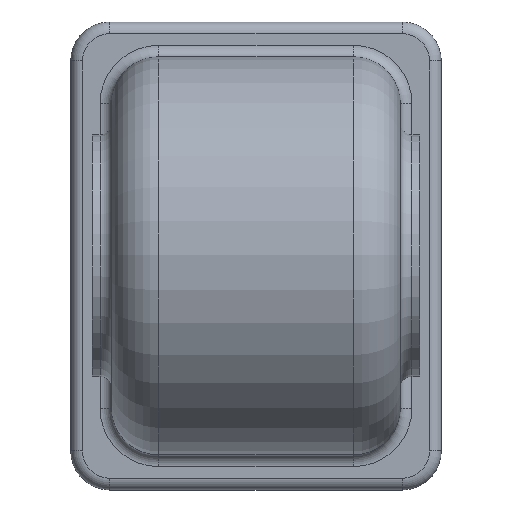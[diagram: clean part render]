
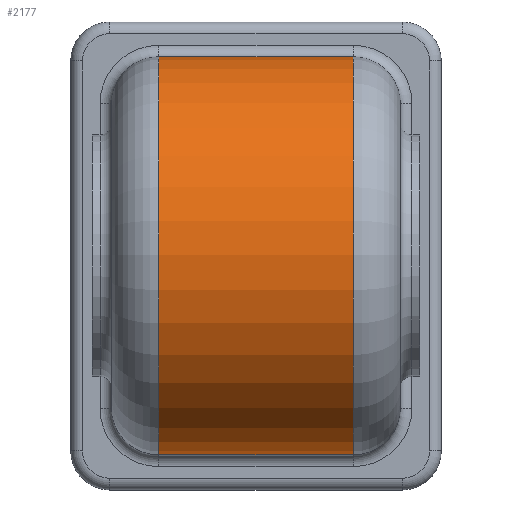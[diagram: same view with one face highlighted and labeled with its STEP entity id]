
A CAD part, top view. The second image highlights one B-rep face of the part: STEP entity #2177.
In plain terms, the highlighted cylindrical face has radius 51 mm (diameter 102 mm), a partial arc.
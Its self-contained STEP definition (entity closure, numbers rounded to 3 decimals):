
#381=CARTESIAN_POINT('',(25.,51.,50.));
#382=VERTEX_POINT('',#381);
#406=CARTESIAN_POINT('',(-25.,51.0,50.));
#407=VERTEX_POINT('',#406);
#414=CARTESIAN_POINT('',(25.,51.,50.));
#415=DIRECTION('',(-1.0,0.0,0.0));
#416=VECTOR('',#415,50.);
#417=LINE('',#414,#416);
#418=EDGE_CURVE('',#382,#407,#417,.T.);
#1845=CARTESIAN_POINT('',(25.,-51.,50.));
#1846=VERTEX_POINT('',#1845);
#1853=CARTESIAN_POINT('',(-25.,-51.,50.));
#1854=VERTEX_POINT('',#1853);
#1855=CARTESIAN_POINT('',(-25.,-51.,50.));
#1856=DIRECTION('',(1.0,0.0,0.0));
#1857=VECTOR('',#1856,50.);
#1858=LINE('',#1855,#1857);
#1859=EDGE_CURVE('',#1854,#1846,#1858,.T.);
#2138=CARTESIAN_POINT('',(-25.,0.0,50.));
#2139=DIRECTION('',(-1.0,0.0,0.0));
#2140=DIRECTION('',(0.0,0.0,1.0));
#2141=AXIS2_PLACEMENT_3D('',#2138,#2139,#2140);
#2142=CIRCLE('',#2141,51.);
#2143=EDGE_CURVE('',#1854,#407,#2142,.T.);
#2156=CARTESIAN_POINT('',(25.,0.0,50.));
#2157=DIRECTION('',(1.0,0.0,0.0));
#2158=DIRECTION('',(0.0,0.0,1.0));
#2159=AXIS2_PLACEMENT_3D('',#2156,#2157,#2158);
#2160=CIRCLE('',#2159,51.);
#2161=EDGE_CURVE('',#382,#1846,#2160,.T.);
#2166=CARTESIAN_POINT('',(-14.,0.0,50.));
#2167=DIRECTION('',(1.0,0.0,0.0));
#2168=DIRECTION('',(0.0,-0.707,0.707));
#2169=AXIS2_PLACEMENT_3D('',#2166,#2167,#2168);
#2170=CYLINDRICAL_SURFACE('',#2169,51.);
#2171=ORIENTED_EDGE('',*,*,#2143,.F.);
#2172=ORIENTED_EDGE('',*,*,#1859,.T.);
#2173=ORIENTED_EDGE('',*,*,#2161,.F.);
#2174=ORIENTED_EDGE('',*,*,#418,.T.);
#2175=EDGE_LOOP('',(#2171,#2172,#2173,#2174));
#2176=FACE_OUTER_BOUND('',#2175,.T.);
#2177=ADVANCED_FACE('',(#2176),#2170,.T.);
